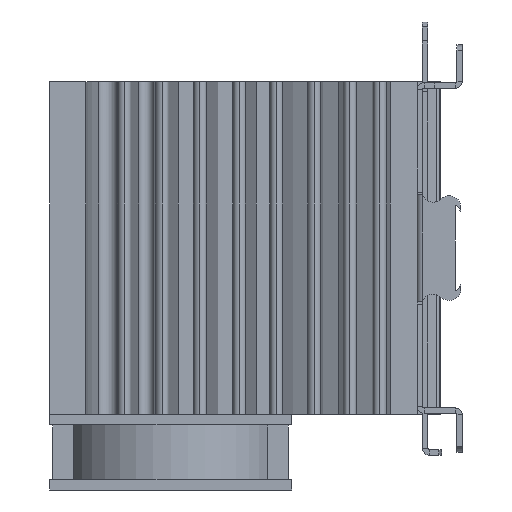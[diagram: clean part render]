
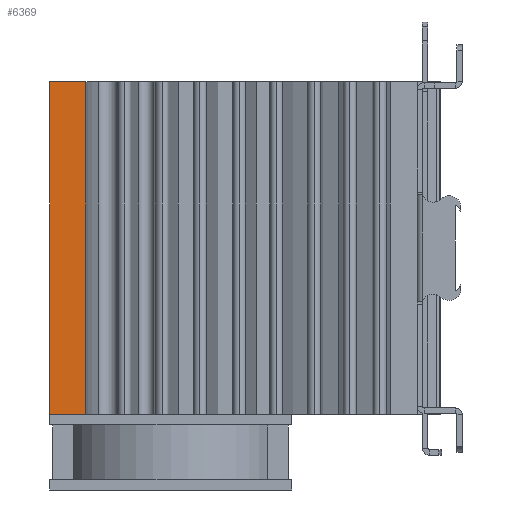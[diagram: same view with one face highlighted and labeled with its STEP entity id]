
A CAD part, left-side view. The second image highlights one B-rep face of the part: STEP entity #6369.
In plain terms, the highlighted planar face has unit normal (-1, 0, 0).
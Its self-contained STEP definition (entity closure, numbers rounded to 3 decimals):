
#391 = CARTESIAN_POINT ( 'NONE',  ( -60., 46.202, -55. ) ) ;
#796 = DIRECTION ( 'NONE',  ( 1., 0., 0. ) ) ;
#1375 = LINE ( 'NONE', #5673, #2971 ) ;
#1768 = DIRECTION ( 'NONE',  ( 0., 1., 0. ) ) ;
#1801 = EDGE_CURVE ( 'NONE', #12709, #9059, #9928, .T. ) ;
#2352 = DIRECTION ( 'NONE',  ( 0., 0., -1. ) ) ;
#2524 = EDGE_CURVE ( 'NONE', #13046, #12709, #1375, .T. ) ;
#2612 = CARTESIAN_POINT ( 'NONE',  ( -60., 58.202, -55. ) ) ;
#2971 = VECTOR ( 'NONE', #2352, 1000. ) ;
#3610 = EDGE_CURVE ( 'NONE', #6995, #9059, #3769, .T. ) ;
#3769 = LINE ( 'NONE', #12190, #6496 ) ;
#3825 = CARTESIAN_POINT ( 'NONE',  ( -60., 58.202, -55. ) ) ;
#5035 = ORIENTED_EDGE ( 'NONE', *, *, #10156, .F. ) ;
#5673 = CARTESIAN_POINT ( 'NONE',  ( -60., 58.202, 55. ) ) ;
#6345 = ORIENTED_EDGE ( 'NONE', *, *, #2524, .T. ) ;
#6351 = CARTESIAN_POINT ( 'NONE',  ( -60., 58.202, 55. ) ) ;
#6369 = ADVANCED_FACE ( 'NONE', ( #13370 ), #8050, .F. ) ;
#6496 = VECTOR ( 'NONE', #6668, 1000. ) ;
#6668 = DIRECTION ( 'NONE',  ( 0., 0., -1. ) ) ;
#6995 = VERTEX_POINT ( 'NONE', #9818 ) ;
#7995 = DIRECTION ( 'NONE',  ( 0., -1., 0. ) ) ;
#8050 = PLANE ( 'NONE',  #11190 ) ;
#8696 = VECTOR ( 'NONE', #7995, 1000. ) ;
#9059 = VERTEX_POINT ( 'NONE', #391 ) ;
#9706 = ORIENTED_EDGE ( 'NONE', *, *, #3610, .F. ) ;
#9818 = CARTESIAN_POINT ( 'NONE',  ( -60., 46.202, 55. ) ) ;
#9928 = LINE ( 'NONE', #2612, #8696 ) ;
#10156 = EDGE_CURVE ( 'NONE', #13046, #6995, #11842, .T. ) ;
#10259 = CARTESIAN_POINT ( 'NONE',  ( -60., 58.202, 55. ) ) ;
#10805 = DIRECTION ( 'NONE',  ( 0., -1., 0. ) ) ;
#11190 = AXIS2_PLACEMENT_3D ( 'NONE', #10259, #796, #1768 ) ;
#11842 = LINE ( 'NONE', #13078, #12554 ) ;
#12190 = CARTESIAN_POINT ( 'NONE',  ( -60., 46.202, 55. ) ) ;
#12494 = ORIENTED_EDGE ( 'NONE', *, *, #1801, .T. ) ;
#12554 = VECTOR ( 'NONE', #10805, 1000. ) ;
#12709 = VERTEX_POINT ( 'NONE', #3825 ) ;
#12818 = EDGE_LOOP ( 'NONE', ( #12494, #9706, #5035, #6345 ) ) ;
#13046 = VERTEX_POINT ( 'NONE', #6351 ) ;
#13078 = CARTESIAN_POINT ( 'NONE',  ( -60., 58.202, 55. ) ) ;
#13370 = FACE_OUTER_BOUND ( 'NONE', #12818, .T. ) ;
